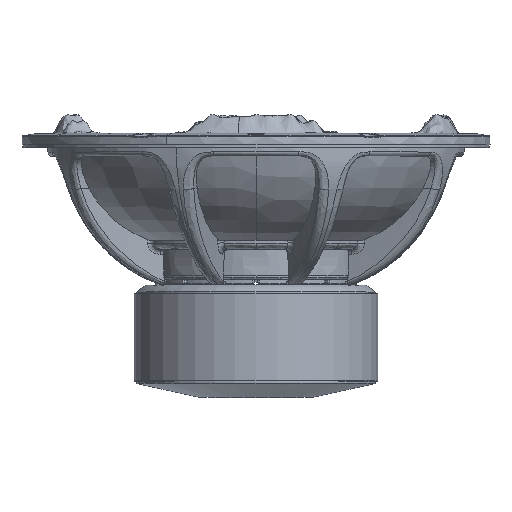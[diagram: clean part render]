
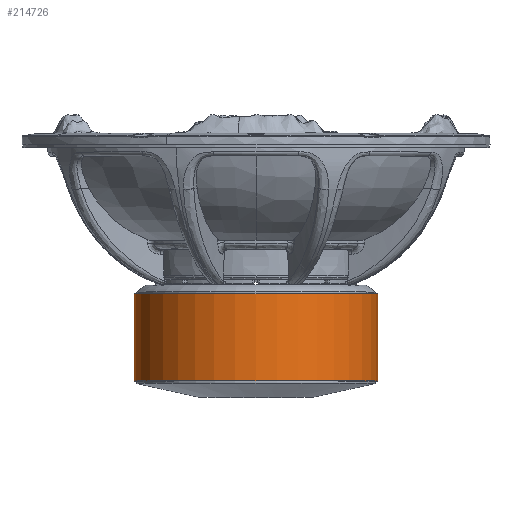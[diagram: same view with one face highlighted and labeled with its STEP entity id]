
A CAD part, top view. The second image highlights one B-rep face of the part: STEP entity #214726.
In plain terms, the highlighted cylindrical face has radius 70 mm (diameter 140 mm), a partial arc.
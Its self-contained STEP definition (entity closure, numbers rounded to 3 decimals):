
#699 = DIRECTION ( 'NONE',  ( 1., 0., 0. ) ) ;
#2145 = DIRECTION ( 'NONE',  ( 0., -1., 0. ) ) ;
#3422 = CIRCLE ( 'NONE', #326624, 70. ) ;
#15825 = EDGE_LOOP ( 'NONE', ( #201545, #144929, #238694, #131810 ) ) ;
#29992 = EDGE_CURVE ( 'NONE', #308828, #112818, #3422, .T. ) ;
#38393 = AXIS2_PLACEMENT_3D ( 'NONE', #312840, #318290, #86666 ) ;
#42148 = CARTESIAN_POINT ( 'NONE',  ( 15.533, 84.442, 228.514 ) ) ;
#57224 = DIRECTION ( 'NONE',  ( 0., 1., 0. ) ) ;
#66432 = AXIS2_PLACEMENT_3D ( 'NONE', #209182, #57224, #311009 ) ;
#68557 = CARTESIAN_POINT ( 'NONE',  ( 155.533, 98.268, 228.514 ) ) ;
#86666 = DIRECTION ( 'NONE',  ( 1., 0., 0. ) ) ;
#100414 = VERTEX_POINT ( 'NONE', #205482 ) ;
#112818 = VERTEX_POINT ( 'NONE', #118345 ) ;
#118345 = CARTESIAN_POINT ( 'NONE',  ( 15.533, 98.268, 228.514 ) ) ;
#126006 = VERTEX_POINT ( 'NONE', #293643 ) ;
#131810 = ORIENTED_EDGE ( 'NONE', *, *, #221840, .F. ) ;
#136854 = CARTESIAN_POINT ( 'NONE',  ( 85.533, 98.268, 228.514 ) ) ;
#144929 = ORIENTED_EDGE ( 'NONE', *, *, #353570, .T. ) ;
#164567 = VECTOR ( 'NONE', #235306, 1000. ) ;
#165912 = CARTESIAN_POINT ( 'NONE',  ( 155.533, 84.442, 228.514 ) ) ;
#172478 = VECTOR ( 'NONE', #2145, 1000. ) ;
#180088 = LINE ( 'NONE', #42148, #164567 ) ;
#191670 = LINE ( 'NONE', #165912, #172478 ) ;
#201545 = ORIENTED_EDGE ( 'NONE', *, *, #29992, .T. ) ;
#205482 = CARTESIAN_POINT ( 'NONE',  ( 155.533, 48.268, 228.514 ) ) ;
#209182 = CARTESIAN_POINT ( 'NONE',  ( 85.533, 84.442, 228.514 ) ) ;
#214726 = ADVANCED_FACE ( 'NONE', ( #349003 ), #254027, .T. ) ;
#221840 = EDGE_CURVE ( 'NONE', #308828, #100414, #191670, .T. ) ;
#235306 = DIRECTION ( 'NONE',  ( 0., -1., 0. ) ) ;
#237324 = EDGE_CURVE ( 'NONE', #100414, #126006, #355549, .T. ) ;
#238694 = ORIENTED_EDGE ( 'NONE', *, *, #237324, .F. ) ;
#254027 = CYLINDRICAL_SURFACE ( 'NONE', #66432, 70. ) ;
#293643 = CARTESIAN_POINT ( 'NONE',  ( 15.533, 48.268, 228.514 ) ) ;
#304229 = DIRECTION ( 'NONE',  ( 0., -1., 0. ) ) ;
#308828 = VERTEX_POINT ( 'NONE', #68557 ) ;
#311009 = DIRECTION ( 'NONE',  ( 1., 0., 0. ) ) ;
#312840 = CARTESIAN_POINT ( 'NONE',  ( 85.533, 48.268, 228.514 ) ) ;
#318290 = DIRECTION ( 'NONE',  ( 0., -1., 0. ) ) ;
#326624 = AXIS2_PLACEMENT_3D ( 'NONE', #136854, #304229, #699 ) ;
#349003 = FACE_OUTER_BOUND ( 'NONE', #15825, .T. ) ;
#353570 = EDGE_CURVE ( 'NONE', #112818, #126006, #180088, .T. ) ;
#355549 = CIRCLE ( 'NONE', #38393, 70. ) ;
